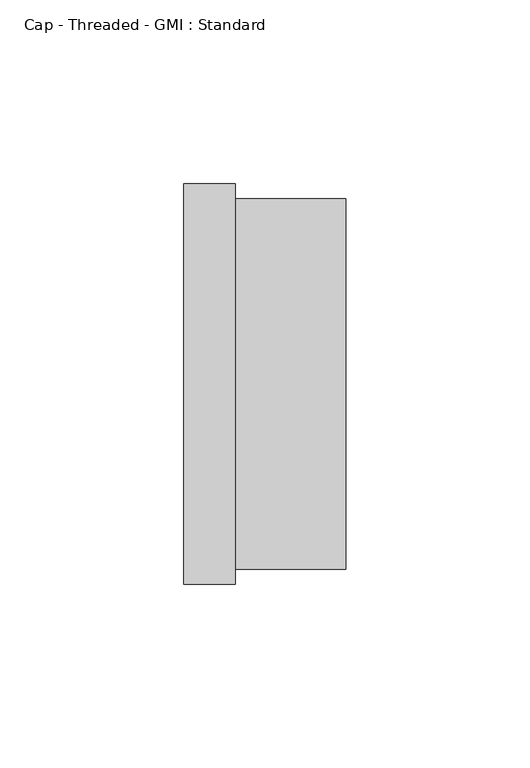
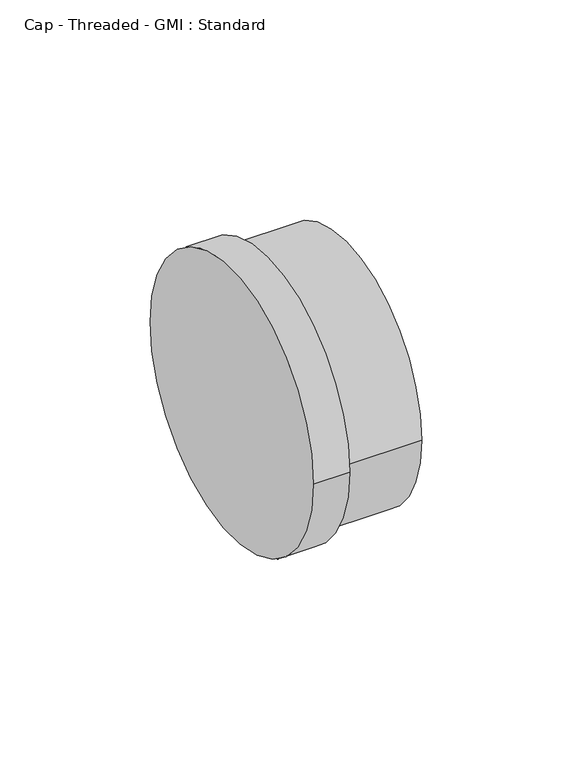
"""IFC4 building model written with IfcOpenShell, lengths in millimetres: pipe fitting geometry, Cap - Threaded - GMI : Standard."""

from ifc_helpers import new_model, si_unit, frame, origin, place, context, project, spatial, circle_curve, source, transform, mapped, element, save
from ifc_brep_helpers import plane_surface, cylinder_surface, advanced_brep


def cap_threaded_gmi_standard_2edacf69(model_context):
    return source(origin(), model_context, "Body", "AdvancedBrep", [
        advanced_brep(
        [(13.9, -54.4, 0.0), (13.9, 54.4, 0.0), (13.9, 50.32, 0.0), (13.9, -50.32, 0.0), (0.0, -54.4, 0.0), (0.0, 54.4, 0.0), (44.0, -50.32, 0.0), (44.0, 50.32, 0.0)],
        [
            (0, 1, circle_curve(frame((13.9, 0.0, 0.0), z_axis=(1.0, 0.0, 0.0), x_axis=(0.0, 1.0, 0.0)), 54.4)),
            (1, 0, circle_curve(frame((13.9, 0.0, 0.0), z_axis=(1.0, 0.0, 0.0), x_axis=(0.0, 1.0, 0.0)), 54.4)),
            (2, 3, circle_curve(frame((13.9, 0.0, 0.0), z_axis=(-1.0, 0.0, 0.0), x_axis=(0.0, 1.0, 0.0)), 50.32)),
            (3, 2, circle_curve(frame((13.9, 0.0, 0.0), z_axis=(-1.0, 0.0, 0.0), x_axis=(0.0, 1.0, 0.0)), 50.32)),
            (4, 5, circle_curve(frame((0.0, 0.0, 0.0), z_axis=(-1.0, 0.0, 0.0), x_axis=(0.0, 1.0, 0.0)), 54.4)),
            (5, 4, circle_curve(frame((0.0, 0.0, 0.0), z_axis=(-1.0, 0.0, 0.0), x_axis=(0.0, 1.0, 0.0)), 54.4)),
            (0, 4),
            (5, 1),
            (6, 7, circle_curve(frame((44.0, 0.0, 0.0), z_axis=(1.0, 0.0, 0.0), x_axis=(0.0, 1.0, 0.0)), 50.32)),
            (7, 6, circle_curve(frame((44.0, 0.0, 0.0), z_axis=(1.0, 0.0, 0.0), x_axis=(0.0, 1.0, 0.0)), 50.32)),
            (6, 3),
            (2, 7),
        ],
        [
            plane_surface(frame((13.9, 54.4, 0.0), z_axis=(1.0, 0.0, 0.0), x_axis=(0.0, 0.0, 1.0))),
            plane_surface(frame((0.0, 54.4, 0.0), z_axis=(-1.0, 0.0, 0.0), x_axis=(0.0, 0.0, -1.0))),
            cylinder_surface(frame((0.0, 0.0, 0.0), z_axis=(1.0, 0.0, 0.0), x_axis=(0.0, 1.0, 0.0)), 54.4),
            plane_surface(frame((44.0, 50.32, 0.0), z_axis=(1.0, 0.0, 0.0), x_axis=(0.0, 0.0, 1.0))),
            cylinder_surface(frame((13.9, 0.0, 0.0), z_axis=(1.0, 0.0, 0.0), x_axis=(0.0, 1.0, 0.0)), 50.32),
        ],
        [
            (0, [[1, 2], [3, 4]]),
            (1, [[5, 6]]),
            (2, [[-1, 7, -6, 8]]),
            (2, [[-2, -8, -5, -7]]),
            (3, [[9, 10]]),
            (4, [[-9, 11, -3, 12]]),
            (4, [[-10, -12, -4, -11]]),
        ],
    ),
    ])


if __name__ == "__main__":
    model = new_model("IFC4")
    model_context = context("Model", 3, world=origin())
    ifc_project = project(units=[si_unit("LENGTHUNIT", "METRE", prefix="MILLI")], contexts=[model_context])
    site = spatial("IfcSite", under=ifc_project)
    building = spatial("IfcBuilding", under=site)
    placement = place(None, origin())
    cap_threaded_gmi_standard_shape = cap_threaded_gmi_standard_2edacf69(model_context)
    element("IfcPipeFitting", 1, ObjectType="Cap - Threaded - GMI : Standard", at=placement, inside=building, context=model_context, shape_type="MappedRepresentation", body=[
        mapped(cap_threaded_gmi_standard_shape, transform((0.0, 0.0, 0.0), x_axis=(1.0, 0.0, 0.0), y_axis=(0.0, 1.0, 0.0), z_axis=(0.0, 0.0, 1.0))),
    ])
    save(model, "model.ifc")
